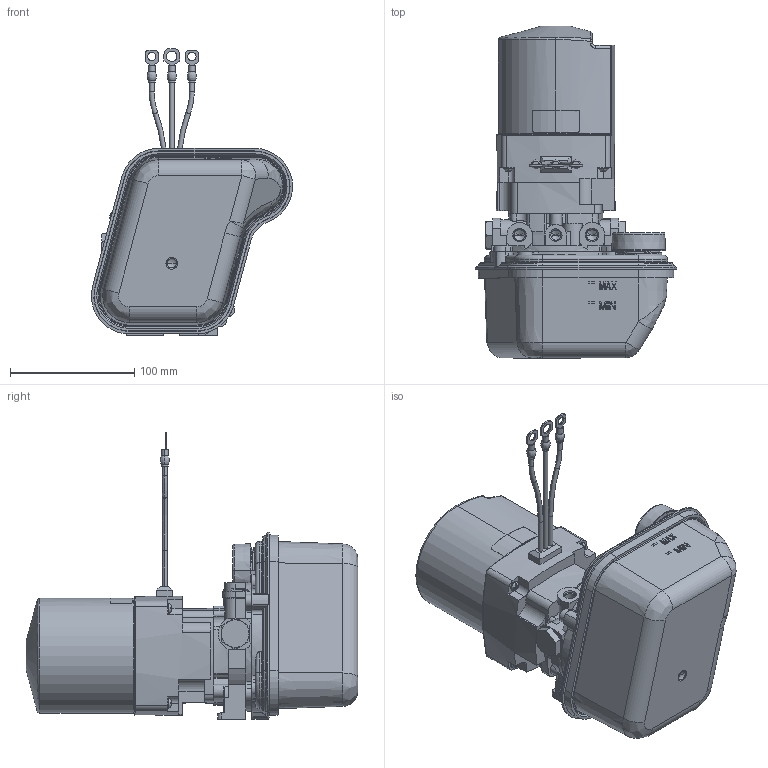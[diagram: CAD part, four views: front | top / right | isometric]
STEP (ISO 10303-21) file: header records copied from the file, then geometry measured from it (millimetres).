
FILE_DESCRIPTION((''),'2;1');
FILE_NAME('108-AM-BI-C_ASM','2012-09-20T',('da10877'),('OILDYNE'),'PRO/ENGINEER BY PARAMETRIC TECHNOLOGY CORPORATION, 2005380','PRO/ENGINEER BY PARAMETRIC TECHNOLOGY CORPORATION, 2005380','');
FILE_SCHEMA(('CONFIG_CONTROL_DESIGN'));
Products named in the file (1): 108-AM-BI-C_ASM
Bounding box: 162.07 x 267.43 x 231.13 mm (x, y, z)
Volume: 1374058.6 mm3; surface area: 261815.9 mm2
Topology: 3 solids, 8 shells, 2055 faces, 5447 edges, 3485 vertices
Faces by surface type: plane 1131, cylinder 508, cone 163, torus 162, bspline 81, sphere 8, revolution 2
Entity records: 69695 total; most frequent: CARTESIAN_POINT 19028, ORIENTED_EDGE 10841, DIRECTION 10227, EDGE_CURVE 5427, VERTEX_POINT 3485, AXIS2_PLACEMENT_3D 3430, VECTOR 3365, LINE 3365
